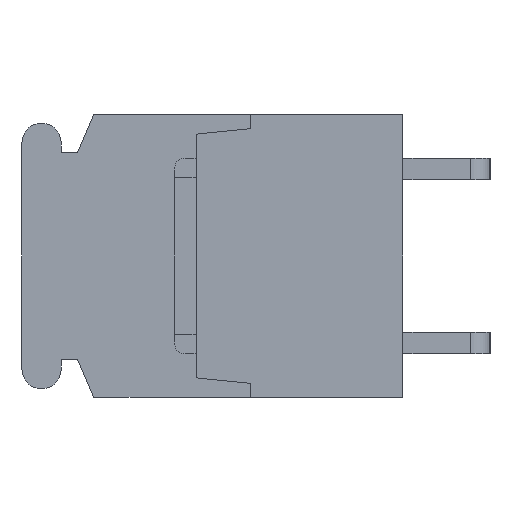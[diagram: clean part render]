
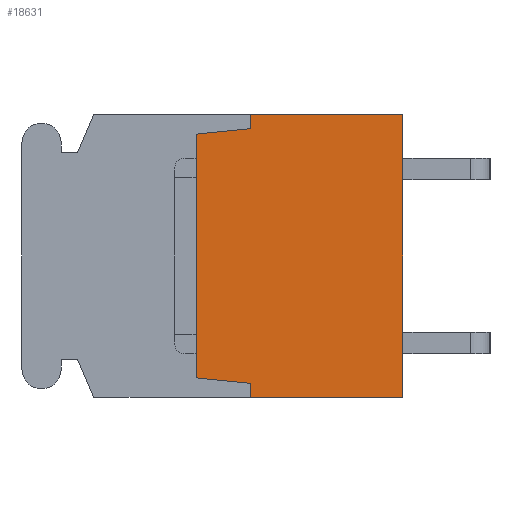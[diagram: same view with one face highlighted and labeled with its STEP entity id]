
A CAD part, left-side view. The second image highlights one B-rep face of the part: STEP entity #18631.
In plain terms, the highlighted planar face has unit normal (-1, 0, 0).
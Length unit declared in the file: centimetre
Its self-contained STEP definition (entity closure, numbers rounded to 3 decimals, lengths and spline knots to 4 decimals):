
#1250=VECTOR('',#20583,1.);
#1313=VECTOR('',#20662,1.);
#2162=VECTOR('',#22764,1.);
#2311=VECTOR('',#23115,1.);
#2312=VECTOR('',#23116,1.);
#2313=VECTOR('',#23117,1.);
#2314=VECTOR('',#23118,1.);
#2315=VECTOR('',#23119,1.);
#3316=LINE('',#25742,#1250);
#3379=LINE('',#25871,#1313);
#4228=LINE('',#28614,#2162);
#4377=LINE('',#29070,#2311);
#4378=LINE('',#29072,#2312);
#4379=LINE('',#29074,#2313);
#4380=LINE('',#29076,#2314);
#4381=LINE('',#29078,#2315);
#5402=VERTEX_POINT('',#25741);
#5403=VERTEX_POINT('',#25743);
#5419=VERTEX_POINT('',#25795);
#5456=VERTEX_POINT('',#25870);
#6394=VERTEX_POINT('',#29071);
#6395=VERTEX_POINT('',#29073);
#6396=VERTEX_POINT('',#29075);
#6397=VERTEX_POINT('',#29077);
#7859=EDGE_CURVE('',#5402,#5403,#3316,.T.);
#7924=EDGE_CURVE('',#5456,#5419,#3379,.T.);
#9152=EDGE_CURVE('',#5419,#5402,#4228,.T.);
#9359=EDGE_CURVE('',#6394,#5456,#4377,.T.);
#9360=EDGE_CURVE('',#6395,#6394,#4378,.T.);
#9361=EDGE_CURVE('',#6396,#6395,#4379,.T.);
#9362=EDGE_CURVE('',#6397,#6396,#4380,.T.);
#9363=EDGE_CURVE('',#5403,#6397,#4381,.T.);
#14397=ORIENTED_EDGE('',*,*,#9152,.F.);
#14398=ORIENTED_EDGE('',*,*,#7924,.F.);
#14399=ORIENTED_EDGE('',*,*,#9359,.F.);
#14400=ORIENTED_EDGE('',*,*,#9360,.F.);
#14401=ORIENTED_EDGE('',*,*,#9361,.F.);
#14402=ORIENTED_EDGE('',*,*,#9362,.F.);
#14403=ORIENTED_EDGE('',*,*,#9363,.F.);
#14404=ORIENTED_EDGE('',*,*,#7859,.F.);
#16387=EDGE_LOOP('',(#14397,#14398,#14399,#14400,#14401,#14402,#14403,#14404));
#17569=FACE_BOUND('',#16387,.T.);
#18631=ADVANCED_FACE('',(#17569),#19456,.F.);
#19456=PLANE('',#31789);
#20583=DIRECTION('',(0.,1.,0.));
#20662=DIRECTION('',(0.,-1.,0.));
#22764=DIRECTION('',(0.,0.,-1.));
#23114=DIRECTION('',(1.,0.,0.));
#23115=DIRECTION('',(0.,0.,1.));
#23116=DIRECTION('',(0.,-0.995,0.1));
#23117=DIRECTION('',(0.,0.,1.));
#23118=DIRECTION('',(0.,0.995,0.1));
#23119=DIRECTION('',(0.,0.,1.));
#25741=CARTESIAN_POINT('',(-1.84,0.,-0.65));
#25742=CARTESIAN_POINT('',(-1.84,0.,-0.65));
#25743=CARTESIAN_POINT('',(-1.84,0.7,-0.65));
#25795=CARTESIAN_POINT('',(-1.84,0.,0.65));
#25870=CARTESIAN_POINT('',(-1.84,0.7,0.65));
#25871=CARTESIAN_POINT('',(-1.84,0.7,0.65));
#28614=CARTESIAN_POINT('',(-1.84,0.,0.65));
#29069=CARTESIAN_POINT('',(-1.84,0.4626,0.));
#29070=CARTESIAN_POINT('',(-1.84,0.7,0.585));
#29071=CARTESIAN_POINT('',(-1.84,0.7,0.585));
#29072=CARTESIAN_POINT('',(-1.84,0.95,0.56));
#29073=CARTESIAN_POINT('',(-1.84,0.95,0.56));
#29074=CARTESIAN_POINT('',(-1.84,0.95,-0.56));
#29075=CARTESIAN_POINT('',(-1.84,0.95,-0.56));
#29076=CARTESIAN_POINT('',(-1.84,0.7,-0.585));
#29077=CARTESIAN_POINT('',(-1.84,0.7,-0.585));
#29078=CARTESIAN_POINT('',(-1.84,0.7,-0.65));
#31789=AXIS2_PLACEMENT_3D('',#29069,#23114,$);
